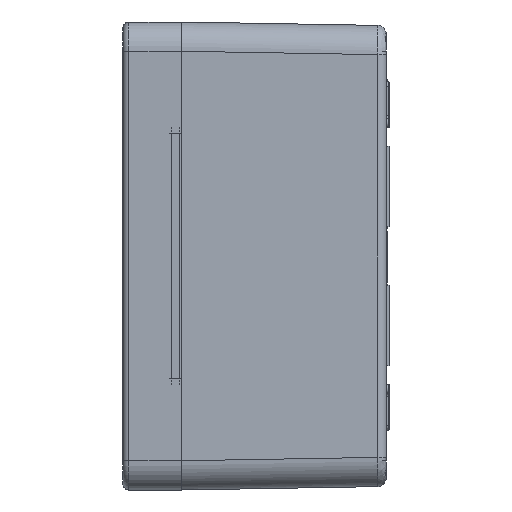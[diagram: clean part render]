
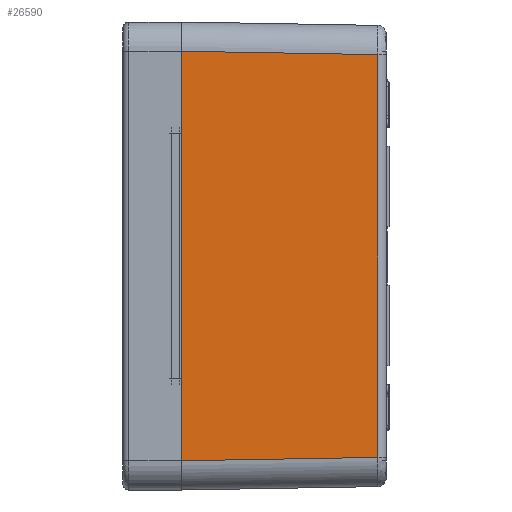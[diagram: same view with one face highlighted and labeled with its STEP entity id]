
A CAD part, left-side view. The second image highlights one B-rep face of the part: STEP entity #26590.
In plain terms, the highlighted planar face has unit normal (-1, -0.017, 0) as drawn and (1, -0.017, 0) by its records, which use the part's own axes.
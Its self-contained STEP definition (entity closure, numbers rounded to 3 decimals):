
#5930=DIRECTION('',(0.,0.,1.));
#5931=VECTOR('',#5930,140.003);
#5932=CARTESIAN_POINT('',(280.,0.,-70.001));
#5933=LINE('',#5932,#5931);
#5943=CARTESIAN_POINT('',(280.,0.,70.001));
#6569=DIRECTION('',(0.,0.,1.));
#6570=VECTOR('',#6569,137.704);
#6571=CARTESIAN_POINT('',(278.851,-67.051,
-68.852));
#6572=LINE('',#6571,#6570);
#6576=DIRECTION('',(0.017,1.,0.017));
#6577=VECTOR('',#6576,67.071);
#6578=CARTESIAN_POINT('',(278.851,-67.051,68.852));
#6579=LINE('',#6578,#6577);
#6583=DIRECTION('',(0.017,1.,-0.017));
#6584=VECTOR('',#6583,67.071);
#6585=CARTESIAN_POINT('',(278.851,-67.051,
-68.852));
#6586=LINE('',#6585,#6584);
#21497=VERTEX_POINT('',#5943);
#21500=CARTESIAN_POINT('',(280.,0.,-70.001));
#21501=VERTEX_POINT('',#21500);
#22131=CARTESIAN_POINT('',(278.851,-67.051,
-68.852));
#22132=CARTESIAN_POINT('',(278.851,-67.051,
68.852));
#22133=VERTEX_POINT('',#22131);
#22134=VERTEX_POINT('',#22132);
#26578=CARTESIAN_POINT('',(279.4,-35.,0.));
#26579=DIRECTION('',(1.,-0.017,0.));
#26580=DIRECTION('',(0.017,1.,0.));
#26581=AXIS2_PLACEMENT_3D('',#26578,#26579,#26580);
#26582=PLANE('',#26581);
#26583=ORIENTED_EDGE('',*,*,#26038,.T.);
#26585=ORIENTED_EDGE('',*,*,#26584,.T.);
#26586=ORIENTED_EDGE('',*,*,#25480,.F.);
#26587=ORIENTED_EDGE('',*,*,#26571,.F.);
#26588=EDGE_LOOP('',(#26583,#26585,#26586,#26587));
#26589=FACE_OUTER_BOUND('',#26588,.F.);
#25480=EDGE_CURVE('',#21501,#21497,#5933,.T.);
#26038=EDGE_CURVE('',#22133,#22134,#6572,.T.);
#26571=EDGE_CURVE('',#22133,#21501,#6586,.T.);
#26584=EDGE_CURVE('',#22134,#21497,#6579,.T.);
#26590=ADVANCED_FACE('',(#26589),#26582,.T.);
